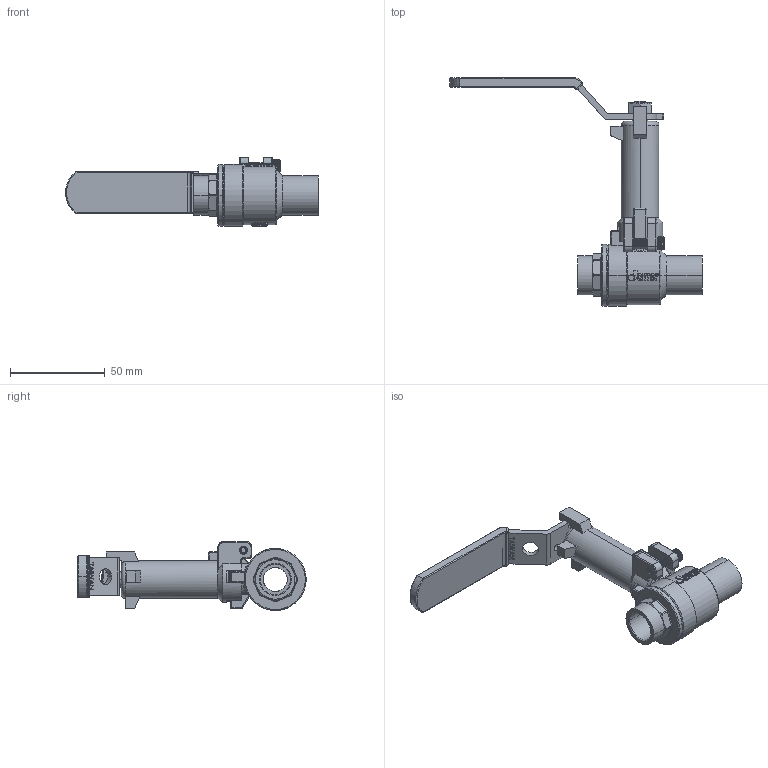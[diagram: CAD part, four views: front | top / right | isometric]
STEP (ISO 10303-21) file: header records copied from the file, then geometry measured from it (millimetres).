
FILE_DESCRIPTION (( 'STEP AP203' ), '1' );
FILE_NAME ('DN15-JOMAR增高套筒估價圖-CxC無掛鎖.STEP', '2024-04-09T08:22:22', ( '' ), ( '' ), 'SwSTEP 2.0', 'SolidWorks 2018', '' );
FILE_SCHEMA (( 'CONFIG_CONTROL_DESIGN' ));
Length unit declared in the file: millimetre
Products named in the file (17): DN15-PIPE 2; RBL263; DN8 & DN10 & DN15-白鐵中心栓; TBL163-無鑽孔; DN15-白鐵中心栓牙套; BBL713A-0.5''''JOMAR球閥CxC帽蓋-無鉛-端面無插溝; SCREW-M4-19L; EBL203; DN15-JOMAR增高套筒估價圖-CxC無掛鎖; CBL211; BBL713-0.5''''JOMAR球閥體-CxC-無鉛-端面無插溝; DN15-CBL211白色膠套-S-200CSSG; EBL203A; DN15-CBL713-HANDLE & SLEEVE 組合(白色S膠套); EBL203B; NBL262; GBL211
Assembly tree (18 placements, depth 3):
  DN15-JOMAR增高套筒估價圖-CxC無掛鎖
    BBL713-0.5''''JOMAR球閥體-CxC-無鉛-端面無插溝
    EBL203A
    EBL203B
    GBL211
    RBL263
    TBL163-無鑽孔
    BBL713A-0.5''''JOMAR球閥CxC帽蓋-無鉛-端面無插溝
    EBL203  x2
    DN15-CBL713-HANDLE & SLEEVE 組合(白色S膠套)
      CBL211
      DN15-CBL211白色膠套-S-200CSSG
    NBL262
    DN15-CBL211白色膠套-S-200CSSG
    DN15-PIPE 2
    DN8 & DN10 & DN15-白鐵中心栓
    DN15-白鐵中心栓牙套
    SCREW-M4-19L
Bounding box: 133.55 x 120.66 x 36.35 mm (x, y, z)
Volume: 58475.8 mm3; surface area: 54775.7 mm2
Topology: 17 solids, 17 shells, 4187 faces, 11308 edges, 7462 vertices
Faces by surface type: plane 2214, bspline 1179, cylinder 629, cone 98, torus 59, sphere 8
Entity records: 160446 total; most frequent: CARTESIAN_POINT 95583, ORIENTED_EDGE 14968, DIRECTION 10163, EDGE_CURVE 7484, VERTEX_POINT 4931, LINE 4091, VECTOR 4091, AXIS2_PLACEMENT_3D 3036
